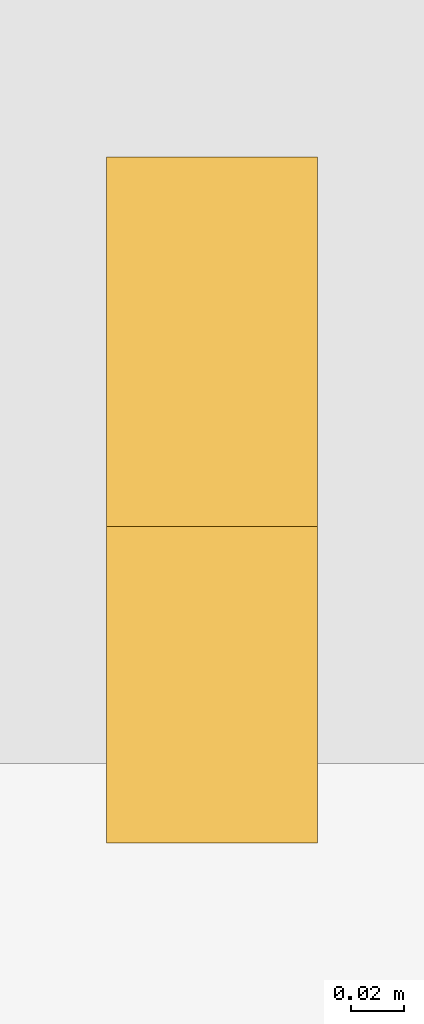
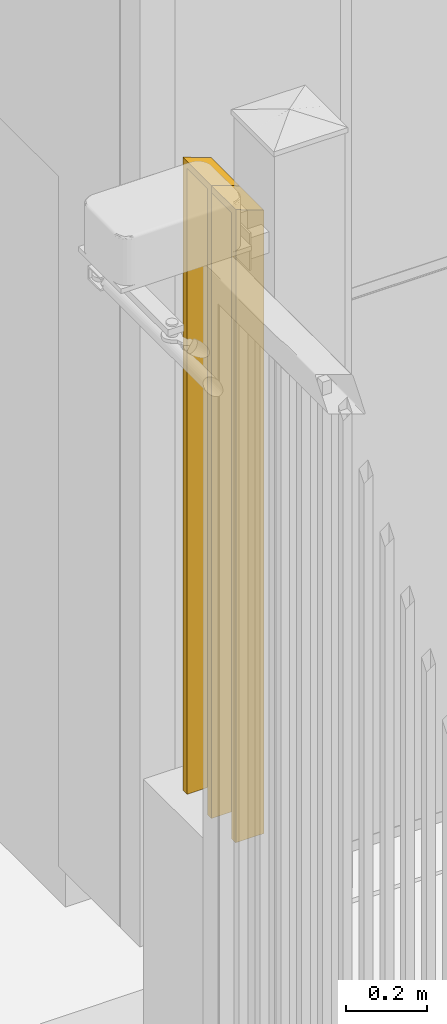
# One storey, part 69 of 77: 2 railings.
"""IFC2X3 building model written with IfcOpenShell, lengths in millimetres."""

from ifc_helpers import new_model, entity, si_unit, converted_unit, derived_unit, direction, frame, origin, place, context, subcontext, project, spatial, faceted_brep, material, element, save


model = new_model("IFC2X3")

# Units and contexts
model_context = context("Model", 3, precision=0.01, world=origin(), true_north=direction((6.12303176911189e-17, 1.0)))
body_context = subcontext(model_context, "Body", "Model", "MODEL_VIEW")
ifc_project = project(units=[si_unit("LENGTHUNIT", "METRE", prefix="MILLI"), si_unit("AREAUNIT", "SQUARE_METRE"), si_unit("VOLUMEUNIT", "CUBIC_METRE"), converted_unit("PLANEANGLEUNIT", "DEGREE", entity("IfcRatioMeasure", 0.0174532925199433), si_unit("PLANEANGLEUNIT", "RADIAN"), dimensions=[0, 0, 0, 0, 0, 0, 0]), si_unit("MASSUNIT", "GRAM", prefix="KILO"), derived_unit("MASSDENSITYUNIT", [(si_unit("MASSUNIT", "GRAM", prefix="KILO"), 1), (si_unit("LENGTHUNIT", "METRE"), -3)]), si_unit("TIMEUNIT", "SECOND"), si_unit("FREQUENCYUNIT", "HERTZ"), si_unit("THERMODYNAMICTEMPERATUREUNIT", "DEGREE_CELSIUS"), derived_unit("THERMALTRANSMITTANCEUNIT", [(si_unit("MASSUNIT", "GRAM", prefix="KILO"), 1), (si_unit("THERMODYNAMICTEMPERATUREUNIT", "KELVIN"), -1), (si_unit("TIMEUNIT", "SECOND"), -3)]), derived_unit("VOLUMETRICFLOWRATEUNIT", [(si_unit("LENGTHUNIT", "METRE"), 3), (si_unit("TIMEUNIT", "SECOND"), -1)]), si_unit("ELECTRICCURRENTUNIT", "AMPERE"), si_unit("ELECTRICVOLTAGEUNIT", "VOLT"), si_unit("POWERUNIT", "WATT"), si_unit("FORCEUNIT", "NEWTON", prefix="KILO"), si_unit("ILLUMINANCEUNIT", "LUX"), si_unit("LUMINOUSFLUXUNIT", "LUMEN"), si_unit("LUMINOUSINTENSITYUNIT", "CANDELA"), derived_unit("USERDEFINED", [(si_unit("MASSUNIT", "GRAM", prefix="KILO"), -1), (si_unit("LENGTHUNIT", "METRE"), -2), (si_unit("TIMEUNIT", "SECOND"), 3), (si_unit("LUMINOUSFLUXUNIT", "LUMEN"), 1)]), derived_unit("LINEARVELOCITYUNIT", [(si_unit("LENGTHUNIT", "METRE"), 1), (si_unit("TIMEUNIT", "SECOND"), -1)]), si_unit("PRESSUREUNIT", "PASCAL"), derived_unit("USERDEFINED", [(si_unit("LENGTHUNIT", "METRE"), -2), (si_unit("MASSUNIT", "GRAM", prefix="KILO"), 1), (si_unit("TIMEUNIT", "SECOND"), -2)])], contexts=[model_context])

# Site, building, storey
site_placement = place(None, origin())
site = spatial("IfcSite", under=ifc_project, at=site_placement, Name="Default", CompositionType="ELEMENT")
building_placement = place(site_placement, origin())
building = spatial("IfcBuilding", under=site, at=building_placement, CompositionType="ELEMENT")
storey_placement = place(building_placement, origin())
storey = spatial("IfcBuildingStorey", under=building, at=storey_placement, Name="1. KORRUS", CompositionType="ELEMENT", Elevation=0.0)

# Railings
ifc_material = material(Name="Default New Material(4)")
for number, where, name in (
    (1, (-16529.9580254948, 35070.0944218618, 550.0), "Railing:2m 1 kaar"),
    (2, (-16529.9580254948, 34950.0944218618, 550.0), "Railing:2m 1 kaar"),
):
    element("IfcRailing", number, at=place(storey_placement, frame(where)), inside=storey, material=ifc_material, Name=name, ObjectType="Railing:2m 1 kaar", PredefinedType="NOTDEFINED", context=body_context, shape_type="Brep", body=[
        faceted_brep([(0.0, 0.0, 0.0), (80.0, 0.0, 0.0), (80.0, 0.0, 1870.8823812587), (0.0, 0.0, 1900.0), (0.0, 140.0, 1900.0), (0.0, 140.0, 0.0), (0.0, 120.0, 0.0), (0.0, 120.0, 1878.71644455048), (0.0, 20.0, 1878.71644455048), (0.0, 20.0, 0.0), (80.0, 20.0, 0.0), (80.0, 20.0, 1849.59882580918), (80.0, 120.0, 1849.59882580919), (80.0, 120.0, 0.0), (80.0, 140.0, 0.0), (80.0, 140.0, 1870.8823812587)], [[[0, 1, 2, 3]], [[3, 4, 5, 6, 7, 8, 9, 0]], [[1, 10, 11, 12, 13, 14, 15, 2]], [[0, 9, 10, 1]], [[9, 8, 11, 10]], [[13, 12, 7, 6]], [[6, 5, 14, 13]], [[5, 4, 15, 14]], [[2, 15, 4, 3]], [[11, 8, 7, 12]]]),
    ])

save(model, "model.ifc")
